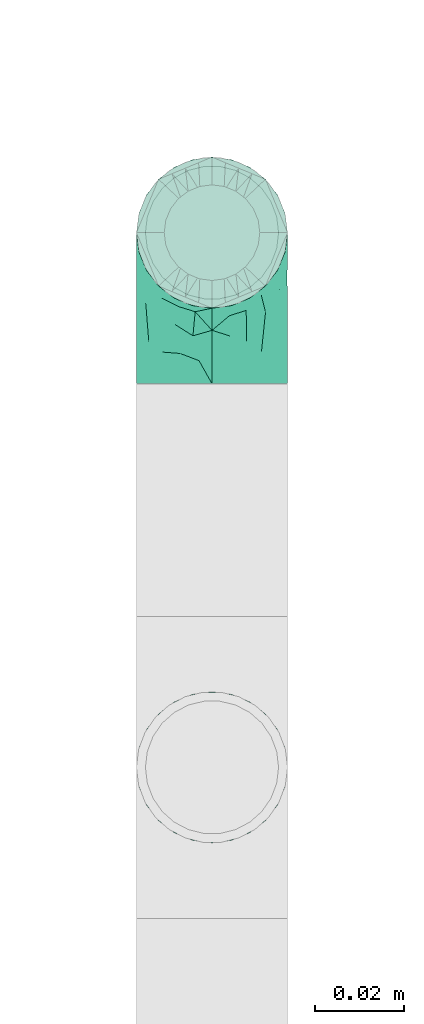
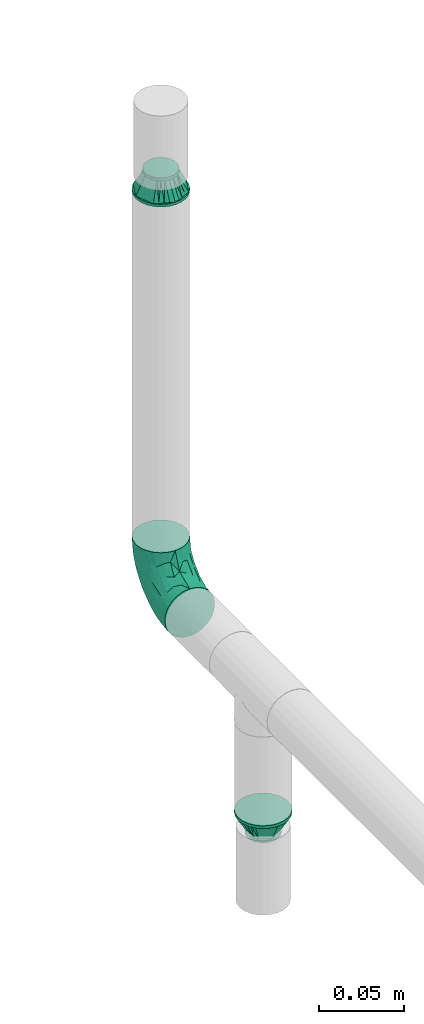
# One storey, part 20 of 51: 3 flow fittings.
"""IFC2X3 building model written with IfcOpenShell, lengths in millimetres."""

from ifc_helpers import new_model, entity, si_unit, converted_unit, derived_unit, direction, frame, origin_with_axes, place, context, subcontext, project, spatial, open_shell, surface_model, source, transform, mapped, type_object, element, save


model = new_model("IFC2X3")

# Units and contexts
model_context = context("Model", 3, precision=0.01, world=frame((0.0, 4.29681676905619e-09, 0.0)), true_north=direction((4.01073788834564e-13, 1.0)))
plan_context = context("Plan", 3, precision=0.01, world=frame((0.0, 4.29681676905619e-09, 0.0)), true_north=direction((4.01073788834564e-13, 1.0)))
body_context = subcontext(model_context, "Body", "Model", "MODEL_VIEW")
ifc_project = project(units=[converted_unit("PLANEANGLEUNIT", "DEGREE", entity("IfcPositiveLengthMeasure", 0.0174532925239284), si_unit("PLANEANGLEUNIT", "RADIAN"), dimensions=[0, 0, 0, 0, 0, 0, 0]), si_unit("AREAUNIT", "SQUARE_METRE"), si_unit("LENGTHUNIT", "METRE", prefix="MILLI"), si_unit("MASSUNIT", "GRAM", prefix="KILO"), si_unit("POWERUNIT", "WATT"), si_unit("PRESSUREUNIT", "PASCAL"), si_unit("FORCEUNIT", "NEWTON", prefix="KILO"), si_unit("ELECTRICVOLTAGEUNIT", "VOLT"), si_unit("ELECTRICCURRENTUNIT", "AMPERE"), si_unit("THERMODYNAMICTEMPERATUREUNIT", "DEGREE_CELSIUS"), si_unit("TIMEUNIT", "SECOND"), si_unit("VOLUMEUNIT", "CUBIC_METRE"), derived_unit("LINEARVELOCITYUNIT", [(si_unit("LENGTHUNIT", "METRE"), 1), (si_unit("TIMEUNIT", "SECOND"), -1)]), derived_unit("VOLUMETRICFLOWRATEUNIT", [(si_unit("VOLUMEUNIT", "CUBIC_METRE"), 1), (si_unit("TIMEUNIT", "SECOND"), -1)]), derived_unit("THERMALTRANSMITTANCEUNIT", [(si_unit("POWERUNIT", "WATT"), 1), (si_unit("THERMODYNAMICTEMPERATUREUNIT", "KELVIN"), -1), (si_unit("AREAUNIT", "SQUARE_METRE"), -1)]), derived_unit("SOUNDPRESSUREUNIT", [(si_unit("PRESSUREUNIT", "PASCAL"), 1)])], contexts=[model_context, plan_context])

# Site, building, storey
site_placement = place(None, frame((0.0, -4.29681676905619e-09, 0.0), z_axis=(0.0, 0.0, 1.0), x_axis=(1.0, 0.0, 0.0)))
site = spatial("IfcSite", under=ifc_project, at=site_placement, Name="ENGM", CompositionType="ELEMENT")
building_placement = place(site_placement, frame((0.0, 4.29681676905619e-09, 0.0), z_axis=(0.0, 0.0, 1.0), x_axis=(1.0, 0.0, 0.0)))
building = spatial("IfcBuilding", under=site, at=building_placement, Name="TH", CompositionType="ELEMENT")
storey_placement = place(building_placement, frame((0.0, 0.0, 210200.0), z_axis=(0.0, 0.0, 1.0), x_axis=(1.0, 0.0, 0.0)))
storey = spatial("IfcBuildingStorey", under=building, at=storey_placement, Name="Nivå F - 0,7 m", CompositionType="ELEMENT", Elevation=210200.0)

# Flow fittings
pipe_fitting_type_1 = type_object("IfcPipeFittingType", Name="magi_pipe_fe_elbow_short_001", PredefinedType="BEND")
shared_shape_1 = source(origin_with_axes(), body_context, "Body", "SurfaceModel", [
    surface_model("IfcShellBasedSurfaceModel", [(-33.8, 8.45, -14.63583), (-33.8, 4.37404, -16.32415), (-33.8, 11.9501, -11.9501), (-33.8, -11.9501, -11.9501), (-33.8, -14.63583, -8.45), (-33.8, -8.45, -14.63583), (-33.8, 0.0, -16.9), (-33.8, -4.37404, -16.32415), (-33.8, -4.37404, 16.32415), (-33.8, 0.0, 16.9), (-33.8, -8.45, 14.63583), (-33.8, 16.32415, -4.37404), (-33.8, 14.63583, -8.45), (-33.8, -16.32415, -4.37404), (-33.8, -16.9, 0.0), (-33.8, -16.32415, 4.37404), (-33.8, 11.9501, 11.9501), (-33.8, 14.63583, 8.45), (-33.8, 16.32415, 4.37404), (-33.8, 4.37404, 16.32415), (-33.8, 8.45, 14.63583), (-33.8, -14.63583, 8.45), (-33.8, -11.9501, 11.9501), (-33.8, 16.9, 0.0), (-11.9501, 33.8, -11.9501), (0.0, 33.8, -16.9), (-4.37404, 33.8, -16.32415), (-8.45, 33.8, -14.63583), (-14.63583, 33.8, -8.45), (-16.32415, 33.8, -4.37404), (14.63583, 33.8, -8.45), (8.45, 33.8, 14.63583), (16.32415, 33.8, -4.37404), (8.45, 33.8, -14.63583), (11.9501, 33.8, -11.9501), (4.37404, 33.8, -16.32415), (16.32415, 33.8, 4.37404), (16.9, 33.8, 0.0), (-11.9501, 33.8, 11.9501), (-16.32415, 33.8, 4.37404), (-14.63583, 33.8, 8.45), (-8.45, 33.8, 14.63583), (-4.37404, 33.8, 16.32415), (11.9501, 33.8, 11.9501), (14.63583, 33.8, 8.45), (0.0, 33.8, 16.9), (4.37404, 33.8, 16.32415), (-16.9, 33.8, 0.0), (-24.79389, -13.12945, 9.48721), (-22.19287, -9.75018, 12.59315), (-24.09897, -14.97035, 0.0), (-14.93934, -10.76256, 8.5297), (-22.46095, -14.75051, 5.27077), (14.75051, 22.46094, 5.27077), (11.9251, 13.23888, 4.33236), (13.04069, 14.39795, 0.0), (7.71387, 13.68847, 11.55891), (9.75018, 22.19287, 12.59315), (4.10169, 13.0571, 14.04018), (-24.84007, -6.39063, 15.2048), (-25.81779, -2.23879, 16.61097), (-23.66549, 2.59054, 16.87119), (-26.50418, 14.06512, 11.08152), (-24.21253, 17.66365, 7.72657), (-29.58514, 15.86957, 7.00283), (-6.17382, -7.5455, 0.0), (-13.23888, -11.9251, 4.33236), (-14.39795, -13.04069, 0.0), (-17.81434, 18.87373, 11.97104), (-6.30846, 29.15138, 15.82987), (-2.31622, 25.28002, 16.85849), (-29.23923, 10.23435, 13.77053), (-1.45439, -2.85688, 7.61475), (-0.28326, 0.34872, 10.09509), (-5.74484, -4.04709, 10.4122), (-4.41137, 11.31918, 16.59407), (-8.39727, 3.10034, 15.7812), (-1.72649, 9.1306, 15.53089), (-17.39909, 24.75344, 7.64977), (-26.19233, 20.0512, 0.0), (-28.14518, 17.29657, 4.25857), (-26.05147, 6.6281, 15.96447), (-5.87354, 16.61944, 16.86968), (-12.51807, 12.51807, 16.48937), (-10.06312, 7.38516, 16.81295), (-3.01882, 3.01882, 13.81718), (-13.0571, -4.10169, 14.04018), (-16.82553, -0.15166, 16.38038), (10.76256, 14.93934, 8.5297), (13.12945, 24.79389, 9.48721), (6.39063, 24.84007, 15.2048), (2.23879, 25.81779, 16.61097), (-13.68847, -7.71387, 11.55891), (14.97035, 24.09897, 0.0), (-7.30894, 22.89991, 16.09489), (-10.67958, 26.17414, 14.008), (-12.78295, 18.26924, 15.06066), (-13.88562, 22.45231, 12.93244), (-18.04944, 15.16501, 14.04434), (-23.11658, 20.08178, 4.02986), (-21.84989, 21.84989, 0.0), (-18.55817, 25.48277, 3.93065), (-13.95142, 26.94732, 11.03289), (-18.57098, 7.23906, 16.59756), (-16.58335, 4.14122, 16.89279), (-17.96666, 11.46709, 15.63151), (-9.84453, 17.54304, 16.18938), (0.15166, 16.82553, 16.38038), (-23.27207, 11.47201, 14.23154), (3.84842, 5.86994, 10.70473), (-8.0212, -7.54413, 7.93275), (1.00345, -2.19508, 4.57414), (5.13203, 3.01004, 5.90201), (5.24161, 1.7543, 2.53265), (8.70457, 7.04947, 3.99182), (-20.0512, 26.19233, 0.0), (8.4852, 8.76699, 7.09296), (-4.55488, -6.72064, 4.90681), (2.05031, -2.05031, 0.0), (7.5455, 6.17382, 0.0), (-26.75399, 2.1369, -16.845), (-14.61995, 24.73803, -11.27736), (-28.45274, -13.45335, -9.81895), (-26.00469, 6.63555, -15.96645), (-23.06726, 20.04573, -4.26202), (-13.80647, -4.26506, -14.17873), (-14.67501, -0.21081, -16.07388), (-6.7902, -0.2828, -13.8478), (-24.53586, 11.08096, -14.13417), (-26.72048, 14.00837, -11.05776), (10.0967, 24.44989, -12.75976), (5.83237, 21.40218, -15.03047), (6.66249, 28.54238, -15.38093), (-20.38182, 15.48705, -12.74596), (12.53268, 21.23441, -9.15363), (12.54494, 15.67504, -5.54878), (9.7522, 12.89279, -8.66343), (-15.65186, 19.64213, -13.01327), (-12.03528, 20.66498, -14.67665), (-15.61907, 15.61906, -14.83879), (-25.56551, -15.26206, 0.0), (-24.65452, -15.12934, -5.50955), (13.45335, 28.45274, -9.81895), (15.12934, 24.65452, -5.50955), (-7.35442, -8.31014, -5.65563), (-15.67504, -12.54494, -5.54878), (-24.44989, -10.0967, -12.75976), (0.16522, 0.41303, -9.71728), (-5.70658, -5.33066, -8.89288), (-5.13869, -2.37198, -11.53565), (-21.23441, -12.53268, -9.15363), (0.71146, 7.93863, -14.09382), (0.21081, 14.67501, -16.07388), (3.49291, 14.42772, -14.76381), (-24.89911, -2.13088, -16.591), (-28.54238, -6.66249, -15.38093), (-18.44386, -7.71663, -13.26957), (2.13088, 24.89911, -16.591), (-28.64342, 17.44413, -2.89318), (1.70017, -1.28722, -5.09504), (-16.57067, 26.81947, -7.36596), (-17.69055, 27.4263, -3.76405), (-12.89279, -9.7522, -8.66343), (-5.96611, 5.96611, -15.95814), (-20.53709, 20.09345, -8.28985), (-2.1369, 26.75399, -16.845), (-6.89872, 24.58781, -16.02578), (-10.60739, 26.53157, -13.98044), (-21.40218, -5.83237, -15.03047), (2.93192, 5.89627, -11.55917), (6.89393, 12.61842, -11.82233), (5.58056, 5.95325, -8.79455), (-3.99512, 18.61798, -16.89635), (8.31014, 7.35442, -5.65563), (-9.1383, 9.86148, -16.89041), (-9.99983, 16.02119, -16.39699), (-16.68576, 9.78031, -16.34199), (-27.01915, 16.61158, -7.12979), (15.26206, 25.56551, 0.0), (-18.61798, 3.99512, -16.89635), (-19.37495, 27.82495, 0.0), (-12.61842, -6.89393, -11.82233), (-18.84705, 19.14018, -10.96545)], [open_shell([[[0, 1, 2]], [[3, 4, 5]], [[6, 7, 5]], [[8, 9, 10]], [[1, 6, 2]], [[11, 12, 2]], [[4, 2, 6]], [[2, 13, 10]], [[5, 4, 6]], [[2, 4, 13]], [[14, 15, 13]], [[11, 2, 16]], [[11, 17, 18]], [[11, 16, 17]], [[19, 20, 16]], [[16, 2, 10]], [[19, 16, 10]], [[21, 22, 15]], [[22, 13, 15]], [[22, 10, 13]], [[10, 9, 19]], [[11, 18, 23]], [[24, 25, 26]], [[24, 26, 27]], [[24, 28, 29]], [[25, 24, 30]], [[31, 32, 24]], [[33, 30, 34]], [[33, 35, 25]], [[25, 30, 33]], [[32, 30, 24]], [[32, 36, 37]], [[38, 24, 29]], [[39, 40, 29]], [[40, 38, 29]], [[38, 41, 42]], [[38, 31, 24]], [[31, 38, 42]], [[36, 43, 44]], [[36, 32, 43]], [[31, 45, 46]], [[32, 31, 43]], [[42, 45, 31]], [[39, 29, 47]], [[22, 48, 49]], [[15, 14, 50]], [[51, 48, 52]], [[53, 54, 55]], [[48, 22, 21]], [[15, 52, 21]], [[56, 57, 58]], [[49, 10, 22]], [[49, 59, 10]], [[9, 60, 61]], [[62, 63, 64]], [[65, 66, 67]], [[57, 43, 31]], [[62, 68, 63]], [[42, 69, 70]], [[20, 71, 16]], [[8, 60, 9]], [[72, 73, 74]], [[75, 76, 77]], [[16, 62, 17]], [[40, 39, 78]], [[79, 23, 80]], [[64, 18, 17]], [[9, 61, 19]], [[19, 81, 20]], [[82, 83, 84]], [[74, 85, 86]], [[59, 86, 87]], [[88, 89, 57]], [[90, 31, 46]], [[44, 53, 36]], [[46, 45, 91]], [[54, 53, 88]], [[44, 89, 53]], [[92, 86, 49]], [[89, 44, 43]], [[10, 59, 8]], [[53, 55, 93]], [[93, 36, 53]], [[66, 52, 67]], [[94, 82, 70]], [[95, 96, 94]], [[97, 98, 96]], [[79, 99, 100]], [[41, 38, 95]], [[101, 100, 99]], [[68, 78, 63]], [[42, 41, 69]], [[23, 18, 80]], [[95, 94, 69]], [[78, 101, 99]], [[38, 102, 95]], [[70, 45, 42]], [[97, 95, 102]], [[15, 50, 52]], [[90, 57, 31]], [[57, 90, 58]], [[81, 19, 61]], [[103, 104, 84]], [[105, 81, 103]], [[38, 40, 102]], [[106, 96, 83]], [[94, 106, 82]], [[91, 70, 107]], [[71, 62, 16]], [[62, 108, 98]], [[86, 59, 49]], [[67, 52, 50]], [[60, 59, 87]], [[92, 49, 51]], [[86, 85, 76]], [[91, 90, 46]], [[37, 36, 93]], [[107, 77, 58]], [[107, 58, 90]], [[58, 85, 109]], [[110, 74, 92]], [[72, 74, 110]], [[66, 51, 52]], [[72, 111, 112]], [[113, 114, 112]], [[56, 88, 57]], [[52, 48, 21]], [[49, 48, 51]], [[57, 89, 43]], [[53, 89, 88]], [[103, 81, 61]], [[71, 81, 108]], [[18, 64, 80]], [[63, 78, 99]], [[47, 115, 101]], [[101, 115, 100]], [[40, 78, 102]], [[68, 102, 78]], [[97, 96, 95]], [[105, 98, 108]], [[103, 84, 83]], [[107, 70, 82]], [[76, 84, 87]], [[82, 84, 75]], [[70, 91, 45]], [[90, 91, 107]], [[59, 60, 8]], [[61, 60, 87]], [[73, 85, 74]], [[109, 112, 116]], [[103, 61, 104]], [[105, 103, 83]], [[96, 105, 83]], [[81, 105, 108]], [[96, 98, 105]], [[62, 98, 68]], [[61, 87, 104]], [[87, 84, 104]], [[86, 76, 87]], [[77, 76, 85]], [[58, 77, 85]], [[75, 77, 107]], [[82, 75, 107]], [[76, 75, 84]], [[81, 71, 20]], [[62, 71, 108]], [[95, 69, 41]], [[70, 69, 94]], [[62, 64, 17]], [[80, 63, 99]], [[63, 80, 64]], [[80, 99, 79]], [[66, 65, 117]], [[110, 66, 117]], [[112, 114, 116]], [[118, 117, 65]], [[110, 92, 51]], [[112, 111, 113]], [[119, 55, 54]], [[74, 86, 92]], [[58, 109, 56]], [[116, 56, 109]], [[66, 110, 51]], [[72, 110, 117]], [[111, 72, 117]], [[73, 112, 109]], [[117, 118, 111]], [[113, 111, 118]], [[118, 119, 113]], [[114, 119, 54]], [[119, 114, 113]], [[116, 54, 88]], [[54, 116, 114]], [[116, 88, 56]], [[112, 73, 72]], [[85, 73, 109]], [[78, 39, 101]], [[47, 101, 39]], [[102, 68, 97]], [[97, 68, 98]], [[82, 106, 83]], [[94, 96, 106]], [[1, 120, 6]], [[28, 24, 121]], [[3, 122, 4]], [[0, 123, 1]], [[100, 124, 79]], [[125, 126, 127]], [[128, 2, 129]], [[130, 131, 132]], [[128, 129, 133]], [[134, 135, 136]], [[137, 138, 139]], [[128, 0, 2]], [[67, 140, 141]], [[134, 142, 143]], [[141, 13, 4]], [[144, 65, 145]], [[146, 3, 5]], [[147, 148, 149]], [[145, 141, 150]], [[151, 152, 153]], [[154, 7, 6]], [[5, 155, 146]], [[150, 146, 156]], [[155, 5, 7]], [[143, 135, 134]], [[35, 157, 25]], [[23, 79, 158]], [[148, 159, 144]], [[160, 161, 29]], [[145, 162, 144]], [[163, 152, 151]], [[29, 28, 160]], [[121, 164, 160]], [[33, 34, 130]], [[25, 165, 26]], [[26, 165, 166]], [[142, 34, 30]], [[24, 27, 167]], [[124, 161, 164]], [[157, 35, 132]], [[155, 154, 168]], [[123, 0, 128]], [[169, 170, 171]], [[172, 157, 152]], [[26, 166, 27]], [[132, 35, 33]], [[142, 130, 34]], [[168, 154, 126]], [[136, 135, 173]], [[133, 137, 139]], [[2, 12, 129]], [[170, 131, 130]], [[30, 32, 143]], [[172, 174, 175]], [[176, 123, 128]], [[158, 177, 11]], [[135, 55, 119]], [[167, 27, 166]], [[175, 166, 172]], [[137, 167, 138]], [[122, 141, 4]], [[140, 14, 13]], [[32, 37, 178]], [[170, 130, 134]], [[152, 157, 131]], [[165, 157, 172]], [[153, 170, 151]], [[152, 163, 174]], [[168, 125, 156]], [[122, 146, 150]], [[120, 154, 6]], [[179, 174, 126]], [[179, 126, 154]], [[126, 163, 127]], [[162, 145, 150]], [[140, 13, 141]], [[32, 178, 143]], [[55, 143, 178]], [[177, 129, 12]], [[128, 133, 139]], [[176, 128, 139]], [[120, 123, 179]], [[121, 160, 28]], [[161, 100, 180]], [[166, 175, 138]], [[121, 24, 167]], [[161, 47, 29]], [[79, 124, 158]], [[124, 164, 177]], [[161, 124, 100]], [[136, 171, 170]], [[127, 163, 151]], [[147, 171, 159]], [[148, 144, 162]], [[127, 151, 169]], [[127, 181, 125]], [[129, 177, 164]], [[12, 11, 177]], [[159, 65, 144]], [[67, 141, 145]], [[143, 55, 135]], [[135, 119, 173]], [[123, 120, 1]], [[154, 120, 179]], [[157, 165, 25]], [[166, 165, 172]], [[172, 152, 174]], [[176, 139, 175]], [[126, 174, 163]], [[176, 174, 179]], [[174, 176, 175]], [[123, 176, 179]], [[150, 181, 162]], [[127, 149, 181]], [[181, 148, 162]], [[159, 148, 147]], [[171, 136, 173]], [[170, 134, 136]], [[159, 171, 173]], [[171, 147, 169]], [[169, 147, 149]], [[151, 170, 169]], [[164, 182, 129]], [[182, 121, 137]], [[181, 149, 148]], [[169, 149, 127]], [[182, 137, 133]], [[167, 137, 121]], [[166, 138, 167]], [[175, 139, 138]], [[129, 182, 133]], [[121, 182, 164]], [[161, 160, 164]], [[47, 161, 180]], [[177, 158, 124]], [[23, 158, 11]], [[130, 132, 33]], [[157, 132, 131]], [[143, 142, 30]], [[130, 142, 134]], [[154, 155, 7]], [[146, 155, 168]], [[146, 122, 3]], [[141, 122, 150]], [[152, 131, 153]], [[159, 119, 118]], [[67, 145, 65]], [[170, 153, 131]], [[119, 159, 173]], [[159, 118, 65]], [[156, 125, 181]], [[126, 125, 168]], [[150, 156, 181]], [[168, 156, 146]]])]),
])
flow_fitting_1_placement = place(storey_placement, frame((900216.02472, 481524.00985, 2700.0), z_axis=(1.0, 0.0, 0.0), x_axis=(0.0, 1.0, 0.0)))
element("IfcFlowFitting", 1, at=flow_fitting_1_placement, inside=storey, type_object=pipe_fitting_type_1, Name="magi_pipe_fe_elbow_short_001", context=body_context, shape_type="MappedRepresentation", body=[
    mapped(shared_shape_1, transform((0.0, 0.0, 0.0), scale=1.0)),
])
pipe_fitting_type_2 = type_object("IfcPipeFittingType", Name="magi_pipe_fe_reducer_centric_short_NOR", PredefinedType="TRANSITION")
shared_shape_2 = source(origin_with_axes(), body_context, "Body", "SurfaceModel", [
    surface_model("IfcShellBasedSurfaceModel", [(14.4, 5.35, -9.26647), (14.4, 0.0, -10.7), (14.4, 2.76936, -10.33541), (14.4, 10.33541, -2.76936), (14.4, 7.56604, -7.56604), (14.4, 9.26647, -5.35), (14.4, -5.35, -9.26647), (14.4, -2.76936, -10.33541), (14.4, -7.56604, -7.56604), (14.4, -10.33541, -2.76936), (14.4, -9.26647, -5.35), (14.4, 10.33541, 2.76936), (14.4, 9.26647, 5.35), (14.4, 7.56604, 7.56604), (14.4, 2.76936, 10.33541), (14.4, 5.35, 9.26647), (14.4, -7.56604, 7.56604), (14.4, -2.76936, 10.33541), (14.4, -5.35, 9.26647), (12.4, 7.56604, 7.56604), (12.4, 9.26647, 5.35), (12.4, 10.33541, 2.76936), (12.4, -2.76936, 10.33541), (12.4, -7.56604, 7.56604), (12.4, -5.35, 9.26647), (12.4, -10.33541, 2.76936), (12.4, -9.26647, 5.35), (12.4, 0.0, 10.7), (12.4, -10.33541, -2.76936), (12.4, -10.7, 0.0), (12.4, -5.35, -9.26647), (12.4, 0.0, -10.7), (12.4, -2.76936, -10.33541), (12.4, 2.76936, -10.33541), (12.4, 10.33541, -2.76936), (12.4, 10.7, 0.0), (12.4, -9.26647, -5.35), (12.4, -7.56604, -7.56604), (14.4, -10.7, 0.0), (12.4, 5.35, -9.26647), (12.4, 7.56604, -7.56604), (12.4, 9.26647, -5.35), (14.4, 10.7, 0.0), (12.4, 5.35, 9.26647), (12.4, 2.76936, 10.33541), (14.4, 0.0, 10.7), (14.4, -9.26647, 5.35), (14.4, -10.33541, 2.76936), (-2.0, 11.9501, 11.9501), (-2.0, 0.0, 16.9), (-2.0, 4.37404, 16.32415), (-2.0, 8.45, 14.63583), (-2.0, 14.63583, 8.45), (-2.0, 16.32415, 4.37404), (-2.0, -16.32415, 4.37404), (-2.0, -8.45, 14.63583), (-2.0, -14.63583, 8.45), (-2.0, -11.9501, 11.9501), (-2.0, -4.37404, 16.32415), (-2.0, -16.32415, -4.37404), (-2.0, -16.9, 0.0), (-2.0, -8.45, -14.63583), (-2.0, 16.32415, -4.37404), (-2.0, 11.9501, -11.9501), (-2.0, 14.63583, -8.45), (-2.0, 8.45, -14.63583), (-2.0, 4.37404, -16.32415), (-2.0, 0.0, -16.9), (-2.0, -11.9501, -11.9501), (-2.0, -14.63583, -8.45), (-2.0, -4.37404, -16.32415), (-2.0, 16.9, 0.0), (0.0, 4.37404, -16.32415), (0.0, 8.45, -14.63583), (0.0, 11.9501, -11.9501), (0.0, 0.0, -16.9), (0.0, 16.32415, -4.37404), (0.0, 16.32415, 4.37404), (0.0, 14.63583, -8.45), (0.0, -8.45, -14.63583), (0.0, -4.37404, -16.32415), (0.0, -11.9501, -11.9501), (0.0, -16.32415, -4.37404), (0.0, -14.63583, -8.45), (0.0, -16.32415, 4.37404), (0.0, 16.9, 0.0), (0.0, 14.63583, 8.45), (0.0, 11.9501, 11.9501), (0.0, 4.37404, 16.32415), (0.0, 8.45, 14.63583), (0.0, 0.0, 16.9), (0.0, -14.63583, 8.45), (0.0, -16.9, 0.0), (0.0, -8.45, 14.63583), (0.0, -11.9501, 11.9501), (0.0, -4.37404, 16.32415), (12.4, 9.3625, -2.31662), (0.0, 14.42505, -5.97505), (0.0, 15.66253, -2.98753), (12.4, -6.6875, -6.94985), (0.0, -13.18758, -8.96258), (0.0, 2.98753, -15.66253), (12.4, 0.0, -9.26647), (12.4, 6.6875, -6.94985), (0.0, 8.96258, -13.18758), (12.4, -9.3625, -2.31662), (0.0, -15.66253, -2.98753), (0.0, -14.42505, -5.97505), (0.0, 5.97505, -14.42505), (0.0, -2.98753, -15.66253), (0.0, -8.96258, -13.18758), (0.0, 13.18758, -8.96258), (12.4, 8.025, -4.63324), (12.4, -2.675, -9.26647), (12.4, 2.675, -9.26647), (0.0, -5.97505, -14.42505), (12.4, -8.025, -4.63324), (12.4, -9.3625, 2.31662), (0.0, -14.42505, 5.97505), (0.0, -15.66253, 2.98753), (12.4, 6.6875, 6.94985), (0.0, 13.18758, 8.96258), (0.0, -2.98753, 15.66253), (12.4, 0.0, 9.26647), (12.4, -6.6875, 6.94985), (0.0, -8.96258, 13.18758), (12.4, 9.3625, 2.31662), (0.0, 15.66253, 2.98753), (0.0, 14.42505, 5.97505), (0.0, -5.97505, 14.42505), (0.0, 2.98753, 15.66253), (0.0, 8.96258, 13.18758), (0.0, -13.18758, 8.96258), (12.4, -8.025, 4.63324), (12.4, 2.675, 9.26647), (12.4, -2.675, 9.26647), (0.0, 5.97505, 14.42505), (12.4, 8.025, 4.63324)], [open_shell([[[0, 1, 2]], [[3, 0, 4]], [[3, 4, 5]], [[1, 6, 7]], [[1, 0, 6]], [[8, 9, 10]], [[9, 8, 6]], [[11, 12, 13]], [[14, 13, 15]], [[16, 17, 18]], [[19, 20, 21]], [[22, 23, 24]], [[23, 22, 25]], [[23, 25, 26]], [[22, 27, 25]], [[25, 28, 29]], [[30, 31, 32]], [[30, 28, 33]], [[33, 31, 30]], [[34, 21, 35]], [[28, 9, 29]], [[36, 10, 28]], [[6, 37, 30]], [[36, 37, 8]], [[7, 30, 32]], [[28, 10, 9]], [[9, 38, 29]], [[7, 6, 30]], [[8, 37, 6]], [[8, 10, 36]], [[1, 7, 32]], [[32, 31, 1]], [[33, 2, 31]], [[39, 0, 33]], [[5, 40, 41]], [[39, 40, 4]], [[3, 41, 34]], [[39, 4, 0]], [[0, 2, 33]], [[42, 3, 34]], [[5, 41, 3]], [[5, 4, 40]], [[35, 42, 34]], [[31, 2, 1]], [[21, 11, 35]], [[20, 12, 21]], [[15, 19, 43]], [[20, 19, 13]], [[14, 43, 44]], [[21, 12, 11]], [[11, 42, 35]], [[14, 15, 43]], [[13, 19, 15]], [[13, 12, 20]], [[45, 14, 44]], [[44, 27, 45]], [[22, 17, 27]], [[24, 18, 22]], [[46, 23, 26]], [[24, 23, 16]], [[47, 26, 25]], [[24, 16, 18]], [[18, 17, 22]], [[38, 47, 25]], [[46, 26, 47]], [[46, 16, 23]], [[29, 38, 25]], [[27, 17, 45]], [[48, 49, 50]], [[48, 50, 51]], [[48, 52, 53]], [[48, 53, 49]], [[49, 53, 54]], [[55, 56, 57]], [[55, 58, 49]], [[56, 55, 49]], [[49, 54, 56]], [[54, 59, 60]], [[54, 53, 61]], [[53, 62, 63]], [[63, 62, 64]], [[63, 65, 66]], [[61, 53, 63]], [[67, 63, 66]], [[59, 68, 69]], [[68, 59, 61]], [[61, 67, 70]], [[59, 54, 61]], [[63, 67, 61]], [[53, 71, 62]], [[72, 73, 74]], [[75, 72, 74]], [[74, 76, 77]], [[76, 74, 78]], [[74, 77, 79]], [[75, 79, 80]], [[75, 74, 79]], [[81, 82, 83]], [[82, 81, 79]], [[79, 84, 82]], [[77, 76, 85]], [[77, 86, 87]], [[77, 87, 88]], [[88, 84, 79]], [[88, 87, 89]], [[84, 88, 90]], [[90, 91, 84]], [[92, 82, 84]], [[91, 93, 94]], [[91, 90, 93]], [[93, 90, 95]], [[79, 77, 88]], [[59, 82, 60]], [[69, 83, 59]], [[79, 68, 61]], [[69, 68, 81]], [[80, 61, 70]], [[59, 83, 82]], [[82, 92, 60]], [[80, 79, 61]], [[81, 68, 79]], [[81, 83, 69]], [[75, 80, 70]], [[70, 67, 75]], [[66, 72, 67]], [[65, 73, 66]], [[78, 63, 64]], [[65, 63, 74]], [[76, 64, 62]], [[65, 74, 73]], [[73, 72, 66]], [[85, 76, 62]], [[78, 64, 76]], [[78, 74, 63]], [[71, 85, 62]], [[67, 72, 75]], [[53, 77, 71]], [[52, 86, 53]], [[89, 48, 51]], [[52, 48, 87]], [[88, 51, 50]], [[53, 86, 77]], [[77, 85, 71]], [[88, 89, 51]], [[87, 48, 89]], [[87, 86, 52]], [[90, 88, 50]], [[50, 49, 90]], [[58, 95, 49]], [[55, 93, 58]], [[91, 57, 56]], [[55, 57, 94]], [[84, 56, 54]], [[55, 94, 93]], [[93, 95, 58]], [[92, 84, 54]], [[91, 56, 84]], [[91, 94, 57]], [[60, 92, 54]], [[49, 95, 90]], [[43, 24, 35]], [[35, 24, 30]], [[30, 39, 35]], [[30, 24, 29]], [[87, 74, 92]], [[75, 92, 74]], [[81, 92, 75]], [[74, 87, 85]], [[96, 97, 98]], [[81, 99, 100]], [[101, 102, 75]], [[98, 85, 35]], [[74, 103, 104]], [[104, 103, 39]], [[105, 106, 107]], [[39, 108, 104]], [[102, 109, 75]], [[110, 99, 81]], [[35, 96, 98]], [[103, 111, 112]], [[109, 102, 113]], [[29, 92, 106]], [[102, 101, 114]], [[110, 115, 30]], [[96, 112, 97]], [[107, 116, 105]], [[29, 106, 105]], [[113, 115, 109]], [[30, 115, 113]], [[116, 107, 100]], [[108, 39, 114]], [[111, 103, 74]], [[111, 97, 112]], [[99, 110, 30]], [[116, 100, 99]], [[101, 108, 114]], [[117, 118, 119]], [[87, 120, 121]], [[122, 123, 90]], [[119, 92, 29]], [[94, 124, 125]], [[125, 124, 24]], [[126, 127, 128]], [[24, 129, 125]], [[123, 130, 90]], [[131, 120, 87]], [[29, 117, 119]], [[124, 132, 133]], [[130, 123, 134]], [[35, 85, 127]], [[123, 122, 135]], [[131, 136, 43]], [[117, 133, 118]], [[128, 137, 126]], [[35, 127, 126]], [[134, 136, 130]], [[43, 136, 134]], [[137, 128, 121]], [[129, 24, 135]], [[132, 124, 94]], [[132, 118, 133]], [[120, 131, 43]], [[137, 121, 120]], [[122, 129, 135]], [[6, 0, 3]], [[46, 6, 3]], [[6, 46, 9]], [[11, 3, 42]], [[3, 13, 46]], [[14, 45, 13]], [[46, 13, 45]], [[9, 47, 38]], [[46, 47, 9]], [[17, 16, 46]], [[45, 17, 46]], [[3, 11, 13]], [[27, 44, 43]], [[27, 43, 19]], [[27, 19, 25]], [[34, 25, 19]], [[34, 19, 21]], [[28, 25, 34]], [[33, 34, 41]], [[40, 39, 33]], [[40, 33, 41]], [[28, 34, 33]], [[28, 37, 36]], [[37, 28, 30]], [[90, 87, 92]], [[92, 94, 90]]])]),
])
flow_fitting_2_placement = place(storey_placement, frame((900216.02472, 481524.00985, 2982.64799999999), z_axis=(0.0, 1.0, 0.0), x_axis=(0.0, 0.0, 1.0)))
element("IfcFlowFitting", 2, at=flow_fitting_2_placement, inside=storey, type_object=pipe_fitting_type_2, Name="magi_pipe_fe_reducer_centric_short_NOR", context=body_context, shape_type="MappedRepresentation", body=[
    mapped(shared_shape_2, transform((0.0, 0.0, 0.0), scale=1.0)),
])
shared_shape_3 = source(origin_with_axes(), body_context, "Body", "SurfaceModel", [
    surface_model("IfcShellBasedSurfaceModel", [(-2.0, -7.56604, -7.56604), (-2.0, -10.33541, -2.76936), (-2.0, -5.35, -9.26647), (12.4, 11.9501, 11.9501), (12.4, 0.0, 16.9), (12.4, 11.9501, -11.9501), (12.4, 16.9, 0.0), (0.0, -10.7, 0.0), (0.0, -5.35, 9.26647), (0.0, -5.35, -9.26647), (12.4, -15.66253, -2.98753), (12.4, -16.9, 0.0), (12.4, -11.9501, -11.9501), (0.0, -6.6875, -6.94985), (12.4, -8.96258, -13.18758), (0.0, 10.7, 0.0), (12.4, 15.66253, -2.98753), (12.4, -5.97505, -14.42505), (12.4, 8.96258, -13.18758), (0.0, 6.6875, -6.94985), (12.4, 5.97505, -14.42505), (0.0, 5.35, -9.26647), (0.0, -9.3625, -2.31662), (0.0, -8.025, -4.63324), (12.4, -14.42505, -5.97505), (12.4, 14.42505, -5.97505), (0.0, 8.025, -4.63324), (0.0, 9.3625, -2.31662), (12.4, 13.18758, -8.96258), (12.4, -13.18758, -8.96258), (12.4, 15.66253, 2.98753), (0.0, 6.6875, 6.94985), (12.4, 8.96258, 13.18758), (12.4, -15.66253, 2.98753), (0.0, 5.35, 9.26647), (12.4, 5.97505, 14.42505), (12.4, -8.96258, 13.18758), (0.0, -6.6875, 6.94985), (12.4, -11.9501, 11.9501), (12.4, -5.97505, 14.42505), (0.0, 9.3625, 2.31662), (0.0, 8.025, 4.63324), (12.4, 14.42505, 5.97505), (12.4, -14.42505, 5.97505), (0.0, -8.025, 4.63324), (0.0, -9.3625, 2.31662), (12.4, -13.18758, 8.96258), (12.4, 13.18758, 8.96258), (14.4, -11.9501, -11.9501), (14.4, -8.45, -14.63583), (14.4, -4.37404, -16.32415), (14.4, 8.45, -14.63583), (14.4, 16.9, 0.0), (14.4, -14.63583, -8.45), (14.4, -16.32415, -4.37404), (14.4, -4.37404, 16.32415), (14.4, 4.37404, -16.32415), (14.4, 0.0, -16.9), (14.4, 14.63583, -8.45), (14.4, 16.32415, -4.37404), (14.4, 11.9501, -11.9501), (14.4, -16.32415, 4.37404), (14.4, -16.9, 0.0), (14.4, -11.9501, 11.9501), (14.4, -14.63583, 8.45), (14.4, -8.45, 14.63583), (14.4, 0.0, 16.9), (14.4, 16.32415, 4.37404), (14.4, 14.63583, 8.45), (14.4, 11.9501, 11.9501), (14.4, 8.45, 14.63583), (14.4, 4.37404, 16.32415), (12.4, 14.63583, 8.45), (12.4, -4.37404, 16.32415), (12.4, -8.45, 14.63583), (12.4, -16.32415, 4.37404), (12.4, -14.63583, 8.45), (12.4, 8.45, 14.63583), (12.4, 4.37404, 16.32415), (12.4, 16.32415, 4.37404), (12.4, 16.32415, -4.37404), (12.4, 8.45, -14.63583), (12.4, -16.32415, -4.37404), (12.4, -14.63583, -8.45), (12.4, -4.37404, -16.32415), (12.4, -8.45, -14.63583), (12.4, 14.63583, -8.45), (12.4, 4.37404, -16.32415), (12.4, 0.0, -16.9), (-2.0, -2.76936, 10.33541), (-2.0, 0.0, 10.7), (-2.0, -10.33541, 2.76936), (-2.0, -5.35, 9.26647), (-2.0, -7.56604, 7.56604), (-2.0, -9.26647, 5.35), (-2.0, 9.26647, 5.35), (-2.0, 5.35, 9.26647), (-2.0, 7.56604, 7.56604), (-2.0, 2.76936, 10.33541), (-2.0, 10.7, 0.0), (-2.0, 10.33541, -2.76936), (-2.0, 10.33541, 2.76936), (-2.0, -9.26647, -5.35), (-2.0, 5.35, -9.26647), (-2.0, -2.76936, -10.33541), (-2.0, 9.26647, -5.35), (-2.0, 7.56604, -7.56604), (-2.0, 2.76936, -10.33541), (-2.0, 0.0, -10.7), (-2.0, -10.7, 0.0), (0.0, -2.76936, -10.33541), (0.0, 0.0, -10.7), (0.0, -7.56604, -7.56604), (0.0, -10.33541, -2.76936), (0.0, 10.33541, -2.76936), (0.0, -9.26647, -5.35), (0.0, 9.26647, 5.35), (0.0, 2.76936, -10.33541), (0.0, 9.26647, -5.35), (0.0, 7.56604, -7.56604), (0.0, -10.33541, 2.76936), (0.0, -7.56604, 7.56604), (0.0, -9.26647, 5.35), (0.0, 0.0, 10.7), (0.0, -2.76936, 10.33541), (0.0, 10.33541, 2.76936), (0.0, 2.76936, 10.33541), (0.0, 7.56604, 7.56604), (12.4, -2.98753, -15.66253), (0.0, -2.675, -9.26647), (0.0, 2.675, -9.26647), (12.4, 2.98753, -15.66253), (0.0, 0.0, -9.26647), (12.4, 2.98753, 15.66253), (0.0, 2.675, 9.26647), (0.0, -2.675, 9.26647), (12.4, -2.98753, 15.66253), (0.0, 0.0, 9.26647)], [open_shell([[[0, 1, 2]], [[3, 4, 5]], [[5, 6, 3]], [[7, 8, 9]], [[10, 11, 7]], [[12, 13, 14]], [[15, 6, 16]], [[9, 17, 14]], [[18, 19, 5]], [[18, 20, 21]], [[22, 23, 24]], [[25, 26, 27]], [[26, 25, 28]], [[29, 24, 23]], [[30, 6, 15]], [[3, 31, 32]], [[7, 11, 33]], [[34, 35, 32]], [[36, 37, 38]], [[36, 39, 8]], [[40, 41, 42]], [[43, 44, 45]], [[44, 43, 46]], [[47, 42, 41]], [[48, 49, 50]], [[48, 50, 51]], [[51, 52, 48]], [[53, 48, 54]], [[48, 55, 54]], [[56, 51, 57]], [[51, 50, 57]], [[58, 59, 60]], [[51, 60, 59]], [[59, 52, 51]], [[61, 62, 54]], [[63, 64, 61]], [[55, 63, 61]], [[48, 52, 55]], [[65, 63, 55]], [[66, 55, 52]], [[67, 68, 66]], [[66, 52, 67]], [[69, 70, 68]], [[70, 66, 68]], [[71, 66, 70]], [[61, 54, 55]], [[4, 72, 73]], [[74, 73, 75]], [[75, 76, 38]], [[74, 75, 38]], [[75, 73, 72]], [[3, 72, 77]], [[4, 78, 77]], [[77, 72, 4]], [[75, 72, 79]], [[6, 80, 79]], [[81, 75, 79]], [[12, 82, 75]], [[83, 82, 12]], [[84, 85, 12]], [[12, 75, 81]], [[12, 81, 84]], [[86, 5, 80]], [[81, 80, 5]], [[87, 88, 81]], [[81, 79, 80]], [[81, 88, 84]], [[11, 75, 82]], [[6, 59, 80]], [[80, 58, 86]], [[81, 5, 51]], [[60, 5, 86]], [[87, 81, 56]], [[59, 58, 80]], [[6, 52, 59]], [[81, 51, 56]], [[51, 5, 60]], [[86, 58, 60]], [[87, 56, 57]], [[57, 88, 87]], [[88, 50, 84]], [[84, 49, 85]], [[83, 12, 53]], [[48, 12, 85]], [[82, 83, 54]], [[49, 48, 85]], [[84, 50, 49]], [[82, 54, 62]], [[54, 83, 53]], [[12, 48, 53]], [[82, 62, 11]], [[57, 50, 88]], [[11, 61, 75]], [[75, 64, 76]], [[74, 38, 65]], [[63, 38, 76]], [[73, 74, 55]], [[61, 64, 75]], [[11, 62, 61]], [[74, 65, 55]], [[65, 38, 63]], [[76, 64, 63]], [[73, 55, 66]], [[66, 4, 73]], [[4, 71, 78]], [[78, 70, 77]], [[72, 3, 68]], [[69, 3, 77]], [[79, 72, 67]], [[70, 69, 77]], [[78, 71, 70]], [[79, 67, 52]], [[67, 72, 68]], [[3, 69, 68]], [[79, 52, 6]], [[66, 71, 4]], [[89, 90, 91]], [[92, 89, 93]], [[91, 94, 93]], [[89, 91, 93]], [[95, 91, 90]], [[96, 97, 98]], [[95, 98, 97]], [[99, 100, 101]], [[90, 98, 95]], [[100, 95, 101]], [[1, 91, 95]], [[1, 95, 100]], [[102, 1, 0]], [[100, 2, 1]], [[2, 103, 104]], [[105, 106, 100]], [[103, 100, 106]], [[107, 108, 103]], [[2, 100, 103]], [[103, 108, 104]], [[109, 91, 1]], [[110, 111, 9]], [[112, 9, 113]], [[113, 9, 114]], [[115, 112, 113]], [[113, 114, 116]], [[117, 21, 111]], [[21, 9, 111]], [[118, 114, 119]], [[21, 119, 114]], [[21, 114, 9]], [[120, 7, 113]], [[121, 122, 120]], [[116, 121, 113]], [[121, 123, 124]], [[8, 121, 124]], [[123, 121, 116]], [[15, 125, 114]], [[114, 125, 116]], [[34, 126, 127]], [[116, 127, 126]], [[116, 126, 123]], [[121, 120, 113]], [[99, 114, 100]], [[100, 118, 105]], [[103, 106, 21]], [[119, 106, 105]], [[107, 103, 117]], [[114, 118, 100]], [[99, 15, 114]], [[103, 21, 117]], [[21, 106, 119]], [[105, 118, 119]], [[107, 117, 111]], [[111, 108, 107]], [[108, 110, 104]], [[104, 9, 2]], [[102, 0, 115]], [[112, 0, 2]], [[1, 102, 113]], [[9, 112, 2]], [[104, 110, 9]], [[1, 113, 7]], [[113, 102, 115]], [[0, 112, 115]], [[1, 7, 109]], [[111, 110, 108]], [[109, 120, 91]], [[91, 122, 94]], [[92, 93, 8]], [[121, 93, 94]], [[89, 92, 124]], [[120, 122, 91]], [[109, 7, 120]], [[92, 8, 124]], [[8, 93, 121]], [[94, 122, 121]], [[89, 124, 123]], [[123, 90, 89]], [[90, 126, 98]], [[98, 34, 96]], [[95, 97, 116]], [[127, 97, 96]], [[101, 95, 125]], [[34, 127, 96]], [[98, 126, 34]], [[101, 125, 15]], [[125, 95, 116]], [[97, 127, 116]], [[101, 15, 99]], [[123, 126, 90]], [[4, 38, 11]], [[11, 88, 5]], [[88, 11, 12]], [[4, 11, 5]], [[8, 34, 15]], [[21, 9, 15]], [[8, 15, 9]], [[128, 17, 129]], [[16, 25, 27]], [[130, 21, 20]], [[18, 21, 19]], [[24, 10, 22]], [[26, 28, 19]], [[20, 131, 130]], [[9, 129, 17]], [[13, 12, 29]], [[9, 14, 13]], [[129, 132, 128]], [[130, 131, 132]], [[29, 23, 13]], [[132, 131, 88]], [[16, 27, 15]], [[22, 10, 7]], [[5, 19, 28]], [[132, 88, 128]], [[133, 35, 134]], [[33, 43, 45]], [[135, 8, 39]], [[36, 8, 37]], [[42, 30, 40]], [[44, 46, 37]], [[39, 136, 135]], [[34, 134, 35]], [[31, 3, 47]], [[34, 32, 31]], [[134, 137, 133]], [[135, 136, 137]], [[47, 41, 31]], [[137, 136, 4]], [[33, 45, 7]], [[40, 30, 15]], [[38, 37, 46]], [[137, 4, 133]]])]),
])
flow_fitting_3_placement = place(storey_placement, frame((900216.02472, 481404.39138, 2596.95199999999), z_axis=(1.0, 0.0, 0.0), x_axis=(0.0, 0.0, 1.0)))
element("IfcFlowFitting", 3, at=flow_fitting_3_placement, inside=storey, type_object=pipe_fitting_type_2, Name="magi_pipe_fe_reducer_centric_short_NOR", context=body_context, shape_type="MappedRepresentation", body=[
    mapped(shared_shape_3, transform((0.0, 0.0, 0.0), scale=1.0)),
])

save(model, "model.ifc")
